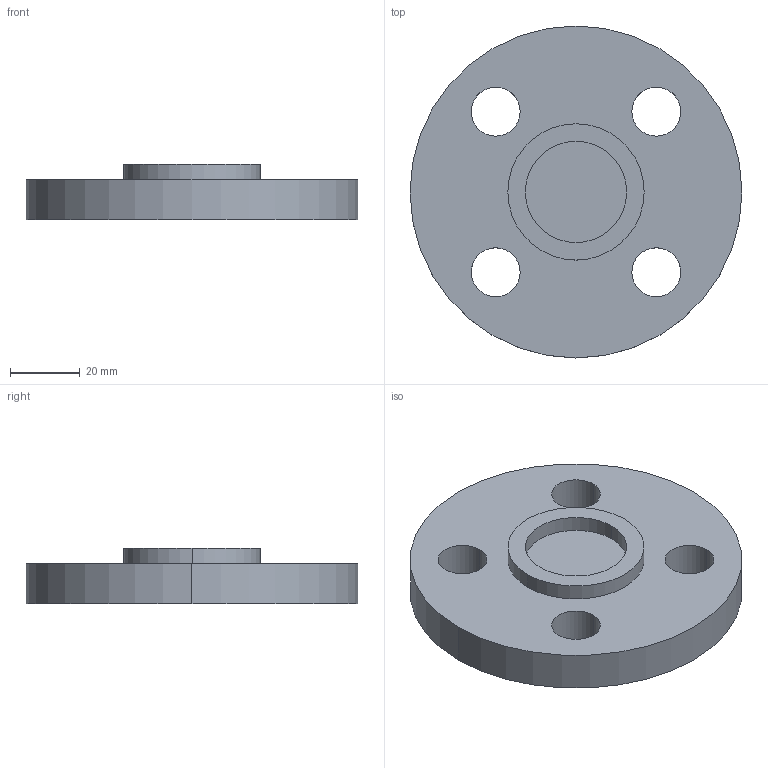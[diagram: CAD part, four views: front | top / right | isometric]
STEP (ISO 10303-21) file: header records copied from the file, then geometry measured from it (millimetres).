
FILE_DESCRIPTION (( 'STEP AP214' ), '1' );
FILE_NAME ('PN40 DN15 Type 05 - Type C Face.STEP', '2018-12-29T15:07:23', ( '' ), ( '' ), 'SwSTEP 2.0', 'SolidWorks 2019', '' );
FILE_SCHEMA (( 'AUTOMOTIVE_DESIGN' ));
Length unit declared in the file: millimetre
Products named in the file (1): PN40 DN15 Type 05 - Type C Face
Bounding box: 95 x 95 x 16 mm (x, y, z)
Volume: 76836.7 mm3; surface area: 19361.6 mm2
Topology: 1 solids, 1 shells, 18 faces, 42 edges, 28 vertices
Faces by surface type: cylinder 14, plane 4
Entity records: 584 total; most frequent: DIRECTION 108, CARTESIAN_POINT 89, ORIENTED_EDGE 84, AXIS2_PLACEMENT_3D 47, EDGE_CURVE 42, CIRCLE 28, EDGE_LOOP 28, VERTEX_POINT 28
